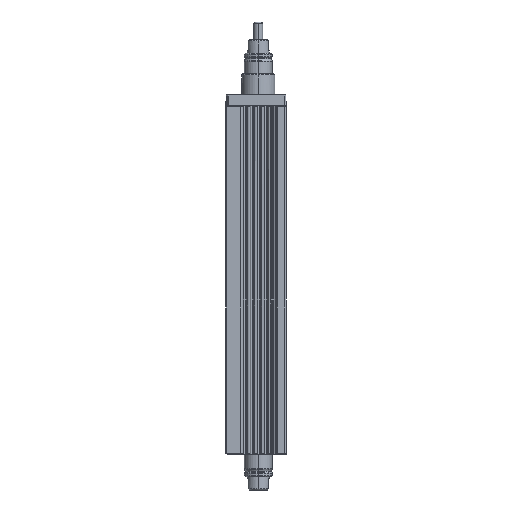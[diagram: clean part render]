
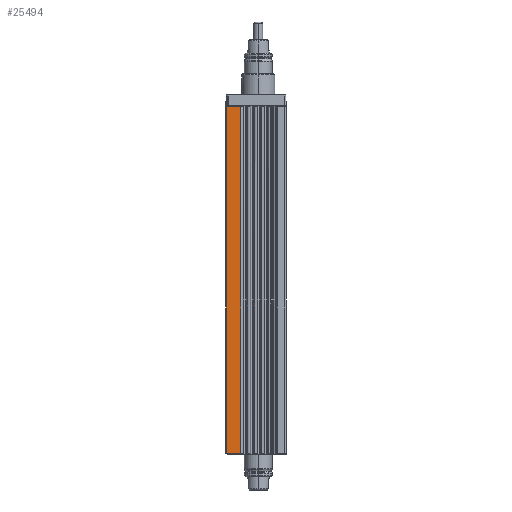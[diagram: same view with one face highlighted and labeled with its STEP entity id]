
A CAD part, front view. The second image highlights one B-rep face of the part: STEP entity #25494.
In plain terms, the highlighted planar face has unit normal (0, -1, 0) as drawn and (-1, 0, 0) by its records, which use the part's own axes.
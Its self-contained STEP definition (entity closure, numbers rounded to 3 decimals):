
#3456 = AXIS2_PLACEMENT_3D ( 'NONE', #63825, #63836, #63837 ) ;
#5139 = VERTEX_POINT ( 'NONE', #64767 ) ;
#5149 = VERTEX_POINT ( 'NONE', #64787 ) ;
#5151 = VERTEX_POINT ( 'NONE', #64790 ) ;
#8041 = EDGE_LOOP ( 'NONE', ( #69944, #69945, #69946, #69947 ) ) ;
#11336 = EDGE_CURVE ( 'NONE', #5139, #5149, #41531, .T. ) ;
#11344 = EDGE_CURVE ( 'NONE', #5149, #5151, #41567, .T. ) ;
#11346 = EDGE_CURVE ( 'NONE', #22489, #5151, #41573, .T. ) ;
#11348 = EDGE_CURVE ( 'NONE', #5139, #22489, #41556, .T. ) ;
#22489 = VERTEX_POINT ( 'NONE', #42420 ) ;
#25494 = ADVANCED_FACE ( 'NONE', ( #63832 ), #63833, .T. ) ;
#41531 = LINE ( 'NONE', #41538, #67940 ) ;
#41538 = CARTESIAN_POINT ( 'NONE',  ( -34., 15.6, -313. ) ) ;
#41541 = DIRECTION ( 'NONE',  ( 0., 0., 1. ) ) ;
#41556 = LINE ( 'NONE', #41580, #68473 ) ;
#41567 = LINE ( 'NONE', #41569, #68331 ) ;
#41569 = CARTESIAN_POINT ( 'NONE',  ( -34., -25., -1. ) ) ;
#41571 = DIRECTION ( 'NONE',  ( 0., 1., 0. ) ) ;
#41573 = LINE ( 'NONE', #41577, #68380 ) ;
#41577 = CARTESIAN_POINT ( 'NONE',  ( -34., 28.5, -313. ) ) ;
#41578 = DIRECTION ( 'NONE',  ( 0., 0., 1. ) ) ;
#41580 = CARTESIAN_POINT ( 'NONE',  ( -34., -25., -312. ) ) ;
#41585 = DIRECTION ( 'NONE',  ( 0., 1., 0. ) ) ;
#42420 = CARTESIAN_POINT ( 'NONE',  ( -34., 28.5, -312. ) ) ;
#63825 = CARTESIAN_POINT ( 'NONE',  ( -34., 28.5, -313. ) ) ;
#63832 = FACE_OUTER_BOUND ( 'NONE', #8041, .T. ) ;
#63833 = PLANE ( 'NONE',  #3456 ) ;
#63836 = DIRECTION ( 'NONE',  ( -1., 0., 0. ) ) ;
#63837 = DIRECTION ( 'NONE',  ( 0., -1., 0. ) ) ;
#64767 = CARTESIAN_POINT ( 'NONE',  ( -34., 15.6, -312. ) ) ;
#64787 = CARTESIAN_POINT ( 'NONE',  ( -34., 15.6, -1. ) ) ;
#64790 = CARTESIAN_POINT ( 'NONE',  ( -34., 28.5, -1. ) ) ;
#67940 = VECTOR ( 'NONE', #41541, 1000. ) ;
#68331 = VECTOR ( 'NONE', #41571, 1000. ) ;
#68380 = VECTOR ( 'NONE', #41578, 1000. ) ;
#68473 = VECTOR ( 'NONE', #41585, 1000. ) ;
#69944 = ORIENTED_EDGE ( 'NONE', *, *, #11336, .T. ) ;
#69945 = ORIENTED_EDGE ( 'NONE', *, *, #11344, .T. ) ;
#69946 = ORIENTED_EDGE ( 'NONE', *, *, #11346, .F. ) ;
#69947 = ORIENTED_EDGE ( 'NONE', *, *, #11348, .F. ) ;
